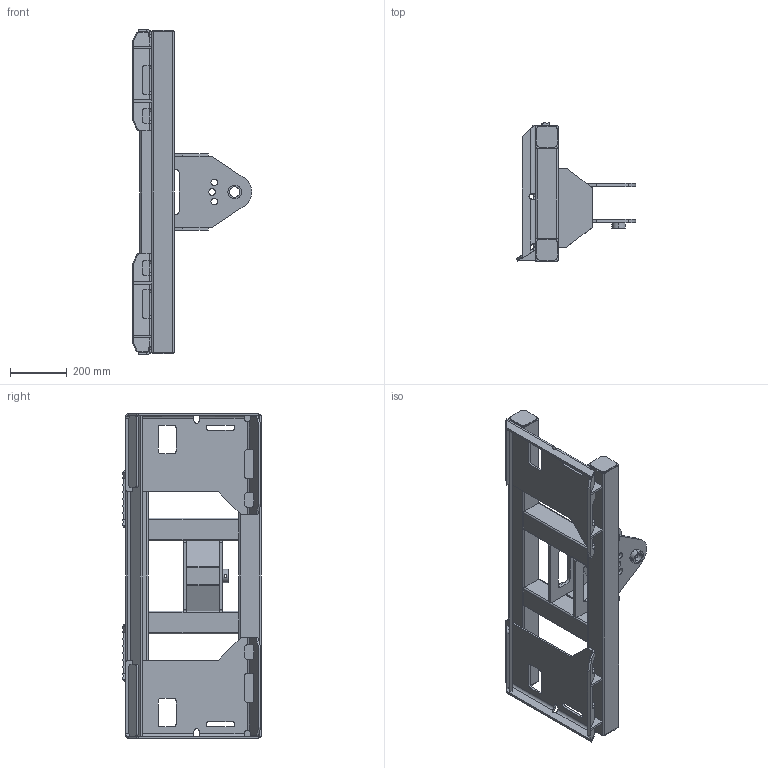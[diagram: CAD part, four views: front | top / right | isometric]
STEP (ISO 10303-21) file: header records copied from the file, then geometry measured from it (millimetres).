
FILE_DESCRIPTION (( 'STEP AP203' ), '1' );
FILE_NAME ('S-AB1830(72IN)-MP1140-01境殤郪璃.STEP', '2025-10-29T12:31:44', ( '' ), ( '' ), 'SwSTEP 2.0', 'SolidWorks 2018', '' );
FILE_SCHEMA (( 'CONFIG_CONTROL_DESIGN' ));
Length unit declared in the file: millimetre
Products named in the file (14): S-AB1830(72IN)-MP1140-01境殤郪璃; S-LP1730(68IN)-MP1140-LT-01-08-Q460衵蟀諉ん啣; FG-T5x80x80-318-Q345源奪; S-RB1830-03-07-Q235粣杶; S-EDGP1630-DR-01-10-Q235滅賑啣; S-RB1830-03-03-Q345笢蟀諉啣T12; S-LP1730(68IN)-MP1140-LT-01-10-Q460源倛啣-儂樓; FG-T5x80x80-1134-Q345源奪; S-LP1730(68IN)-MP1140-LT-01-07-Q460奻境啣; S-RB1830-03-04-Q345源倛啣-儂樓T8; SJB-T8×64×37-Q355B三角板; FXB-T6×75×75-Q235方形板; S-LP1730(68IN)-MP1140-LT-01-06-Q460酘蟀諉ん啣; S-RB1830-03-02-Q345笢耜啣T10
Assembly tree (25 placements, depth 2):
  S-AB1830(72IN)-MP1140-01境殤郪璃
    FG-T5x80x80-1134-Q345源奪  x2
    FG-T5x80x80-318-Q345源奪  x2
    S-RB1830-03-02-Q345笢耜啣T10  x2
    S-RB1830-03-03-Q345笢蟀諉啣T12  x2
    S-RB1830-03-04-Q345源倛啣-儂樓T8
    S-RB1830-03-07-Q235粣杶
    S-LP1730(68IN)-MP1140-LT-01-06-Q460酘蟀諉ん啣
    S-LP1730(68IN)-MP1140-LT-01-07-Q460奻境啣
    S-LP1730(68IN)-MP1140-LT-01-10-Q460源倛啣-儂樓  x2
    S-LP1730(68IN)-MP1140-LT-01-08-Q460衵蟀諉ん啣
    SJB-T8×64×37-Q355B三角板  x4
    FXB-T6×75×75-Q235方形板  x4
    S-EDGP1630-DR-01-10-Q235滅賑啣  x2
Bounding box: 422.36 x 491.37 x 1150 mm (x, y, z)
Volume: 9777662.7 mm3; surface area: 3123261.3 mm2
Topology: 27 solids, 27 shells, 642 faces, 1664 edges, 1064 vertices
Faces by surface type: plane 384, cylinder 184, bspline 74
Entity records: 15543 total; most frequent: CARTESIAN_POINT 3466, ORIENTED_EDGE 2206, DIRECTION 2029, EDGE_CURVE 1103, VECTOR 711, LINE 711, VERTEX_POINT 698, AXIS2_PLACEMENT_3D 659
